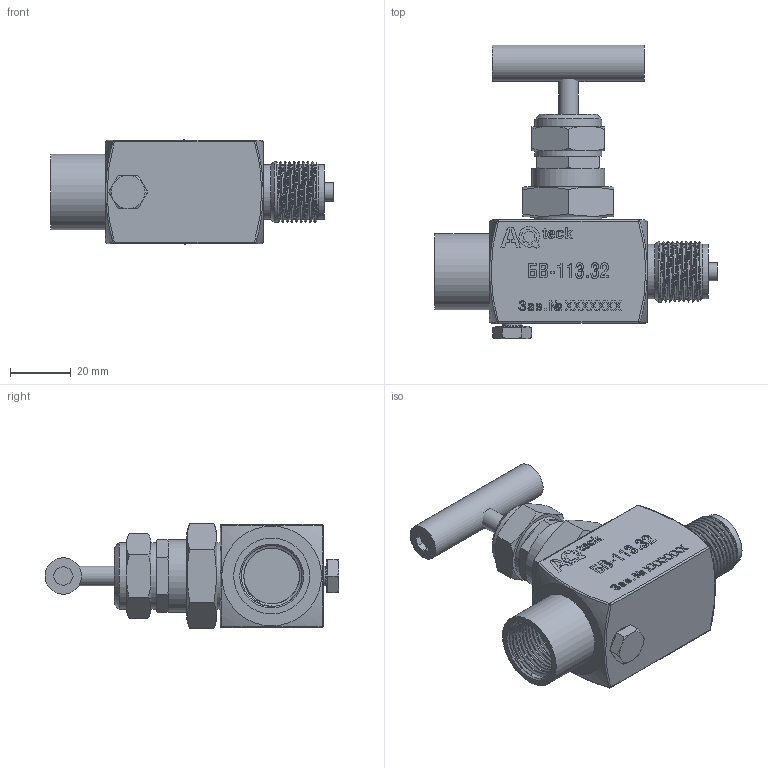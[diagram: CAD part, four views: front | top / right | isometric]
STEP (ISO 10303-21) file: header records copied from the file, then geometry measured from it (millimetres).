
FILE_DESCRIPTION (( 'STEP AP214' ), '1' );
FILE_NAME ('謝-113.32.STEP', '2025-09-03T09:23:53', ( '' ), ( '' ), 'SwSTEP 2.0', 'SolidWorks 2019', '' );
FILE_SCHEMA (( 'AUTOMOTIVE_DESIGN' ));
Length unit declared in the file: millimetre
Products named in the file (4): hex finished bolt_ai_HFBOLT 0.25-20x0.25x0.25-N; Îäíîâåíòåëüíèé áëîê  Ì20Õ1,5; 謝-113.32; 幄鼭歑
Assembly tree (3 placements, depth 2):
  謝-113.32
    幄鼭歑
    hex finished bolt_ai_HFBOLT 0.25-20x0.25x0.25-N
    Îäíîâåíòåëüíèé áëîê  Ì20Õ1,5
Bounding box: 93 x 96.73 x 34.64 mm (x, y, z)
Volume: 87258.2 mm3; surface area: 25284.8 mm2
Topology: 10 solids, 10 shells, 629 faces, 1636 edges, 1069 vertices
Faces by surface type: plane 362, bspline 216, cylinder 26, cone 14, sphere 8, torus 3
Full cylindrical faces by diameter (mm): 3 x1, 6 x1, 6.35 x1, 6.5 x2, 10.817 x1, 11.125 x1, 12 x1, 16 x4, 18 x2, 22 x3, 24 x1, 25 x1
Entity records: 36491 total; most frequent: CARTESIAN_POINT 17713, ORIENTED_EDGE 3178, DIRECTION 2061, EDGE_CURVE 1589, VERTEX_POINT 1062, LINE 995, VECTOR 995, EDGE_LOOP 723
